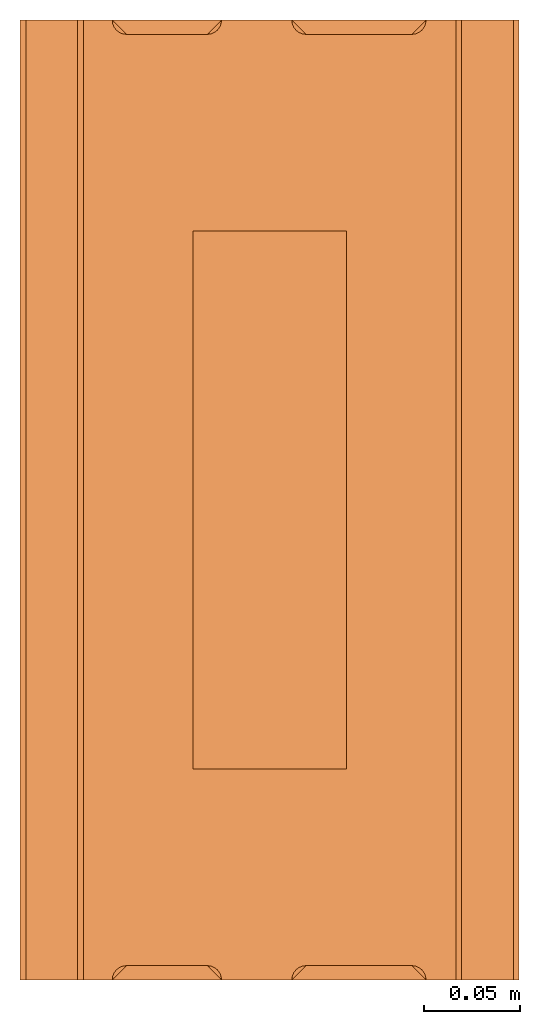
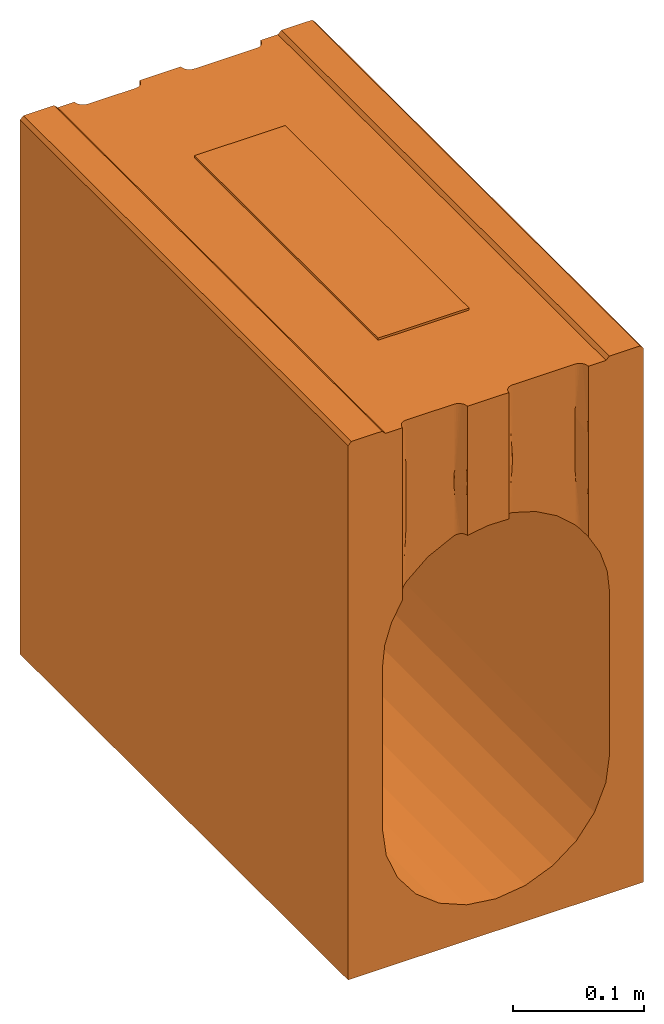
# One storey: 1 proxy.
"""IFC2X3 building model written with IfcOpenShell, lengths in millimetres."""

from ifc_helpers import new_model, entity, si_unit, converted_unit, direction, frame, origin, place, context, subcontext, project, spatial, faceted_brep, source, transform, mapped, material, element, save


model = new_model("IFC2X3")

# Units and contexts
model_context = context("Model", 3, precision=1e-06, world=origin(), true_north=direction((2.0, 6.12303176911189e-17, 1.0)))
context_of_model = context(None, 3, precision=1e-06, world=origin(), true_north=direction((2.0, 6.12303176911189e-17, 1.0)))
body_context = subcontext(model_context, "Body", "Model", "MODEL_VIEW")
ifc_project = project(units=[si_unit("LENGTHUNIT", "METRE", prefix="MILLI"), si_unit("AREAUNIT", "SQUARE_METRE", prefix="MILLI"), si_unit("VOLUMEUNIT", "CUBIC_METRE", prefix="MILLI"), converted_unit("PLANEANGLEUNIT", "DEGREE", entity("IfcRatioMeasure", 0.0174532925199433), si_unit("PLANEANGLEUNIT", "RADIAN"), dimensions=[0, 0, 0, 0, 0, 0, 0]), si_unit("TIMEUNIT", "SECOND")], contexts=[model_context, context_of_model])

# Site, building, storey
site_placement = place(None, origin())
site = spatial("IfcSite", under=ifc_project, at=site_placement, Name="Default", CompositionType="ELEMENT")
building_placement = place(site_placement, origin())
building = spatial("IfcBuilding", under=site, at=building_placement, CompositionType="ELEMENT")
storey_placement = place(building_placement, frame((0.0, 0.0, -4600.0)))
storey = spatial("IfcBuildingStorey", under=building, at=storey_placement, Name="B.O. Footing", CompositionType="ELEMENT", Elevation=-4600.0)

# Proxy
ifc_material = material(Name="Acetal Resin, Black")
shared_shape = source(origin(), body_context, "Body", "Brep", [
    faceted_brep([(-130.0, 0.0, -500.0), (-96.3425826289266, 0.0, -395.881904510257), (-99.7500000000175, 0.0, -370.0), (-86.3525403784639, 0.0, -420.0), (-99.7499999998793, 0.0, -219.996245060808), (-130.0, 0.0, -3.0), (-25.6319045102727, 0.0, -466.592582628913), (-49.7500000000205, 0.0, -456.60254037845), (-70.460678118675, 0.0, -440.71067811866), (0.24999999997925, 0.0, -470.0), (130.0, 0.0, -500.0), (-97.0, 0.0, -3.0), (-100.0, 0.0, 0.0), (-127.0, 0.0, 0.0), (-97.7180508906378, 0.0, -199.939799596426), (-91.712035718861, 0.0, -180.715410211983), (-82.0, 0.0, -163.119734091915), (-82.0, 0.0, -83.0598682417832), (26.1319045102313, 0.0, -466.592582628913), (70.9606781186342, 0.0, -440.710678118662), (50.2499999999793, 0.0, -456.602540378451), (86.8525403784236, 0.0, -420.0), (96.8425826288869, 0.0, -395.88190451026), (100.24999999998, 0.0, -370.0), (100.24999999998, 0.0, -219.996245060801), (130.0, 0.0, -3.00030384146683), (97.0, 0.0, -3.0), (81.5000000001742, 0.0, -161.700125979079), (91.7626676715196, 0.0, -179.679602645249), (81.5000000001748, 0.0, -3.0), (81.5000000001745, 0.0, -66.0758561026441), (81.5000000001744, 0.0, -113.887991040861), (98.09970829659, 0.0, -199.370179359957), (126.999696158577, 0.0, 0.0), (100.0, 0.0, 0.0), (11.5477946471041, 500.0, -3.0), (11.5477946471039, 500.0, -72.8243603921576), (-6.86860893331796, 500.0, -120.249939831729), (-25.0, 500.0, -3.0), (-25.0, 500.0, -123.236555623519), (-25.0, 500.0, -75.4244206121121), (-25.0, 0.0, -3.0), (-25.0, 0.0, -75.4244213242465), (-6.84906831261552, 0.0, -120.248547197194), (11.5477946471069, 0.0, -3.0), (11.5477946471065, 0.0, -120.636495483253), (11.5477946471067, 0.0, -72.8243591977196), (130.0, 500.0, -500.0), (96.8425826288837, 500.0, -395.88190451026), (100.249999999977, 500.0, -370.0), (86.8525403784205, 500.0, -420.0), (100.250000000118, 500.0, -219.99624506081), (130.0, 500.0, -3.00030384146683), (26.1319045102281, 500.0, -466.592582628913), (50.2499999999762, 500.0, -456.602540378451), (70.9606781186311, 500.0, -440.710678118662), (0.249999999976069, 500.0, -470.0), (-130.0, 500.0, -500.0), (126.999696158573, 500.0, 0.0), (97.0, 500.0, -3.0), (100.0, 500.0, 0.0), (98.1003080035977, 500.0, -199.373024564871), (91.7558642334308, 500.0, -179.664163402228), (81.5000000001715, 500.0, -161.700125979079), (81.5000000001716, 500.0, -113.88799138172), (-25.6319045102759, 500.0, -466.592582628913), (-70.4606781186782, 500.0, -440.71067811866), (-49.7500000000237, 500.0, -456.60254037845), (-86.3525403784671, 500.0, -420.0), (-96.3425826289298, 500.0, -395.881904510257), (-99.7500000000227, 500.0, -370.0), (-99.7499999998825, 500.0, -219.996245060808), (-130.0, 500.0, -3.0), (-97.0, 500.0, -3.0), (-82.0, 500.0, -163.119734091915), (-91.7167978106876, 500.0, -180.726560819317), (-82.0, 500.0, -3.0), (-82.0, 500.0, -83.0598682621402), (-97.7175764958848, 500.0, -199.937482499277), (-127.0, 500.0, 0.0), (-100.0, 500.0, 0.0), (40.0, 319.282032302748, -500.0), (20.7055236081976, 327.274066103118, -500.0), (56.5685424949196, 306.568542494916, -500.0), (0.0, 330.0, -500.0), (80.0, 250.0, -500.0), (77.2740661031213, 270.705523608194, -500.0), (69.2820323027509, 290.0, -500.0), (-20.7055236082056, 327.274066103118, -500.0), (-40.0, 319.282032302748, -500.0), (-56.5685424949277, 306.568542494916, -500.0), (-69.282032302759, 290.0, -500.0), (-77.2740661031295, 270.705523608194, -500.0), (-80.0, 250.0, -500.0), (69.2820323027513, 210.0, -500.0), (77.2740661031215, 229.294476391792, -500.0), (56.5685424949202, 193.431457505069, -500.0), (40.0, 180.717967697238, -500.0), (20.7055236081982, 172.725933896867, -500.0), (0.0, 170.0, -500.0), (-77.2740661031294, 229.29447639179, -500.0), (-69.2820323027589, 210.0, -500.0), (-40.0, 180.717967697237, -500.0), (-20.7055236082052, 172.725933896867, -500.0), (-56.5685424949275, 193.431457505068, -500.0), (81.1950043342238, 497.882947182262, -161.277370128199), (81.1950043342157, 2.11705281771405, -161.277370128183), (80.4216632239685, 496.125436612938, -160.225814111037), (80.4216632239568, 3.87456338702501, -160.225814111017), (76.857097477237, 493.06552136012, -155.720646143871), (78.1743561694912, 493.769048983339, -157.324124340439), (78.1743561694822, 6.23095101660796, -157.324124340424), (76.8570974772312, 6.93447863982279, -155.72064614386), (79.3794709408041, 494.773979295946, -158.85275130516), (79.3794709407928, 5.2260207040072, -158.852751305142), (75.4574022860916, 492.64296400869, -154.088380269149), (75.4574022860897, 7.35703599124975, -154.088380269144), (13.2016693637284, 495.301828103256, -120.838520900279), (14.3957886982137, 494.117072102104, -121.001817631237), (14.3957886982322, 5.8829278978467, -121.001817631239), (13.2016693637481, 4.69817189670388, -120.838520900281), (11.7383704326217, 498.320024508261, -120.65835025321), (11.7383704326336, 1.67997549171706, -120.658350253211), (12.2997424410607, 496.72680715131, -120.724881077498), (12.2997424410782, 3.27319284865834, -120.7248810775), (58.0227410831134, 492.49999999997, -138.373267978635), (74.0, 492.499999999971, -152.461531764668), (74.0, 7.49999999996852, -152.461531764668), (58.0227410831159, 7.49999999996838, -138.373267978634), (39.4240326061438, 492.49999999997, -127.988662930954), (39.4240326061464, 7.49999999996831, -127.988662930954), (15.818647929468, 493.230759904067, -121.215593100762), (17.3961191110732, 492.684129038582, -121.477157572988), (17.3961191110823, 7.31587096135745, -121.477157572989), (15.8186479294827, 6.76924009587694, -121.215593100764), (19.047794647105, 492.49999999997, -121.778920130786), (19.0477946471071, 7.49999999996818, -121.778920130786), (11.5477946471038, 500.0, -120.636495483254), (-25.1970181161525, 498.292236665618, -123.288182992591), (-25.774869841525, 496.679966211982, -123.442083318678), (-25.1970181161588, 1.7077633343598, -123.288182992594), (-25.7748698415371, 3.32003378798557, -123.442083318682), (-26.6957528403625, 495.250187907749, -123.695017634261), (-26.6957528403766, 4.7498120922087, -123.695017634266), (-27.9018817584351, 494.074857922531, -124.040674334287), (-27.9018817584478, 5.92514207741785, -124.040674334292), (-55.3007739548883, 492.499999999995, -136.845108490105), (-32.4999999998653, 492.499999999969, -125.511127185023), (-32.4999999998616, 7.49999999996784, -125.511127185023), (-55.3007739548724, 7.49999999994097, -136.845108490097), (-30.880559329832, 492.676926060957, -124.965259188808), (-30.8805593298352, 7.32307393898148, -124.96525918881), (-29.3223177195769, 493.206448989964, -124.468877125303), (-29.3223177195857, 6.79355100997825, -124.468877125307), (-81.6881727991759, 497.859866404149, -162.671417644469), (-81.6881727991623, 2.14013359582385, -162.671417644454), (-80.9062164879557, 496.099949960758, -161.569637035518), (-80.9062164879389, 3.90005003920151, -161.569637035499), (-77.346208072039, 493.061044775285, -156.918289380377), (-75.9521343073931, 492.641922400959, -155.241054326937), (-75.9521343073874, 7.35807759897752, -155.241054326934), (-77.346208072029, 6.93895522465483, -156.918289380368), (-74.4999999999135, 492.500000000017, -153.570064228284), (-74.4999999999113, 7.49999999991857, -153.570064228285), (-79.8615303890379, 494.755575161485, -160.145240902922), (-79.8615303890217, 5.24442483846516, -160.145240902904), (-78.658658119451, 493.758560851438, -158.568045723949), (-78.6586581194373, 6.24143914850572, -158.568045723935), (-25.0, 0.0, -123.236555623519), (-81.744443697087, 498.058857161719, -3.0), (-80.9951905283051, 496.249999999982, -3.0), (-25.2555563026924, 498.058857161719, -3.0), (-26.0048094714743, 496.249999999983, -3.0), (11.8033509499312, 498.05885716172, -3.0), (-79.8033008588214, 494.696699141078, -3.0), (-78.2499999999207, 493.504809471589, -3.0), (-74.4999999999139, 492.499999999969, -3.0), (-76.4411428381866, 492.755556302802, -3.0), (-76.4411428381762, 7.24444369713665, -3.0), (-74.4999999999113, 7.49999999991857, -3.0), (-27.196699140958, 494.696699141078, -3.0), (-28.7499999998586, 493.50480947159, -3.0), (13.744493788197, 494.696699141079, -3.0), (12.5526041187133, 496.249999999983, -3.0), (-30.5588571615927, 492.755556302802, -3.0), (-32.4999999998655, 492.499999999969, -3.0), (19.0477946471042, 492.49999999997, -3.0), (17.1066518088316, 492.755556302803, -3.0), (15.2977946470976, 493.504809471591, -3.0), (-32.4999999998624, 7.49999999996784, -3.0), (81.500000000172, 500.0, -3.0), (81.2444436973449, 498.05885716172, -3.0), (80.4951905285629, 496.249999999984, -3.0), (79.3033008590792, 494.69669914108, -3.0), (77.7500000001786, 493.504809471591, -3.0), (75.9411428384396, 7.2444436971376, -3.0), (75.9411428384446, 492.755556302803, -3.0), (74.0, 492.499999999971, -3.0), (74.0, 7.49999999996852, -3.0), (19.0477946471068, 7.49999999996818, -3.0), (-78.2499999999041, 6.49519052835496, -3.0), (-30.5588571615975, 7.24444369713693, -3.0), (17.1066518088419, 7.2444436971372, -3.0), (-28.7499999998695, 6.4951905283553, -3.0), (-27.196699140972, 5.30330085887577, -3.0), (13.7444937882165, 5.30330085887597, -3.0), (15.2977946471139, 6.4951905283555, -3.0), (-81.7444436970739, 1.94114283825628, -3.0), (-80.9951905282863, 3.74999999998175, -3.0), (-82.0, 0.0, -3.0), (-79.8033008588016, 5.30330085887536, -3.0), (-25.2555563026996, 1.94114283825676, -3.0), (11.8033509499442, 1.94114283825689, -3.0), (-26.0048094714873, 3.74999999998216, -3.0), (12.5526041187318, 3.74999999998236, -3.0), (77.7500000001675, 6.49519052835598, -3.0), (80.4951905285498, 3.74999999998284, -3.0), (81.2444436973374, 1.94114283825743, -3.0), (79.303300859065, 5.30330085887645, -3.0), (19.047794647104, 492.49999999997, -73.9667852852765), (74.0, 492.499999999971, -98.6242681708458), (74.0, 492.499999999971, -50.8121340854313), (81.5000000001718, 500.0, -66.0758567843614), (-74.499999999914, 492.499999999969, -50.8121342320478), (-74.4999999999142, 492.499999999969, -98.6242694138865), (-32.4999999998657, 492.499999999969, -77.6989936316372), (-20.7055236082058, 327.274066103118, -490.0), (0.0, 330.0, -490.0), (-40.0, 319.282032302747, -490.0), (-56.5685424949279, 306.568542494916, -490.0), (-80.0, 250.0, -490.0), (-69.2820323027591, 290.0, -490.0), (-77.2740661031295, 270.705523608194, -490.0), (40.0, 319.282032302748, -490.0), (40.0, 180.717967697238, -490.0), (20.7055236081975, 327.274066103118, -490.0), (56.5685424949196, 306.568542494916, -490.0), (69.2820323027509, 290.0, -490.0), (77.2740661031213, 270.705523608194, -490.0), (80.0, 250.0, -490.0), (-69.2820323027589, 210.0, -490.0), (-40.0, 180.717967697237, -490.0), (-56.5685424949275, 193.431457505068, -490.0), (0.0, 170.0, -490.0), (-20.7055236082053, 172.725933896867, -490.0), (77.2740661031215, 229.294476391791, -490.0), (69.2820323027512, 210.0, -490.0), (56.56854249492, 193.431457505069, -490.0), (20.705523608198, 172.725933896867, -490.0), (-77.2740661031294, 229.29447639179, -490.0), (74.0, 7.4999999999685, -50.8121299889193), (74.0, 7.4999999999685, -98.6242669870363), (19.0477946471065, 7.49999999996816, -73.9667863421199), (-74.4999999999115, 7.49999999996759, -50.8121335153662), (-32.4999999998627, 7.49999999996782, -77.6989939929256), (-74.4999999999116, 7.49999999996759, -98.624267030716)], [[[0, 1, 2]], [[1, 0, 3]], [[0, 2, 4, 5]], [[6, 7, 0]], [[8, 3, 0]], [[7, 8, 0]], [[9, 6, 0, 10]], [[5, 11, 12, 13]], [[14, 5, 4]], [[5, 14, 15]], [[11, 5, 16, 17]], [[16, 5, 15]], [[18, 9, 10]], [[19, 20, 10]], [[18, 10, 20]], [[21, 10, 22]], [[10, 21, 19]], [[23, 22, 10]], [[24, 23, 10, 25]], [[25, 26, 27, 28]], [[26, 29, 30, 31]], [[32, 24, 25]], [[33, 34, 26, 25]], [[25, 28, 32]], [[35, 36, 37, 38]], [[37, 39, 40, 38]], [[41, 42, 43, 44]], [[43, 45, 46, 44]], [[47, 48, 49]], [[48, 47, 50]], [[47, 49, 51, 52]], [[53, 54, 47]], [[55, 50, 47]], [[54, 55, 47]], [[56, 53, 47, 57]], [[58, 52, 59, 60]], [[61, 52, 51]], [[52, 61, 62]], [[59, 52, 63, 64]], [[63, 52, 62]], [[65, 56, 57]], [[66, 67, 57]], [[65, 57, 67]], [[68, 57, 69]], [[57, 68, 66]], [[70, 69, 57]], [[71, 70, 57, 72]], [[72, 73, 74, 75]], [[73, 76, 77, 74]], [[78, 71, 72]], [[72, 79, 80, 73]], [[72, 75, 78]], [[10, 47, 52, 25]], [[47, 81, 82]], [[81, 47, 83]], [[47, 82, 84]], [[85, 86, 47, 10]], [[87, 83, 47]], [[86, 87, 47]], [[84, 88, 57, 47]], [[57, 88, 89]], [[89, 90, 57]], [[91, 92, 57]], [[90, 91, 57]], [[57, 92, 93]], [[94, 95, 10]], [[96, 94, 10]], [[97, 10, 98]], [[10, 97, 96]], [[99, 98, 10, 0]], [[95, 85, 10]], [[100, 101, 0]], [[93, 100, 0, 57]], [[102, 103, 0]], [[104, 0, 101]], [[0, 104, 102]], [[103, 99, 0]], [[66, 68, 3, 8]], [[65, 67, 7, 6]], [[67, 66, 8, 7]], [[56, 65, 6, 9]], [[2, 1, 69, 70]], [[68, 69, 1, 3]], [[54, 53, 18, 20]], [[55, 54, 20, 19]], [[48, 50, 21, 22]], [[50, 55, 19, 21]], [[49, 48, 22, 23]], [[9, 18, 53, 56]], [[70, 71, 4, 2]], [[51, 24, 61]], [[63, 62, 27]], [[62, 61, 28]], [[105, 63, 27, 106]], [[107, 105, 106, 108]], [[109, 110, 111, 112]], [[110, 113, 114, 111]], [[113, 107, 108, 114]], [[115, 109, 112, 116]], [[117, 118, 119, 120]], [[43, 121, 122]], [[121, 123, 124, 122]], [[123, 117, 120, 124]], [[125, 126, 127, 128]], [[129, 125, 128, 130]], [[131, 132, 133, 134]], [[132, 135, 136, 133]], [[135, 129, 130, 136]], [[118, 131, 134, 119]], [[126, 115, 116, 127]], [[24, 32, 61]], [[28, 27, 62]], [[28, 61, 32]], [[122, 45, 43]], [[137, 121, 37]], [[138, 39, 37]], [[139, 138, 140, 141]], [[140, 138, 37]], [[142, 139, 141, 143]], [[144, 142, 143, 145]], [[146, 147, 148, 149]], [[147, 150, 151, 148]], [[152, 144, 145, 153]], [[150, 152, 153, 151]], [[74, 154, 155, 16]], [[74, 15, 75]], [[154, 156, 157, 155]], [[14, 78, 75]], [[158, 159, 160, 161]], [[159, 162, 163, 160]], [[156, 164, 165, 157]], [[164, 166, 167, 165]], [[166, 158, 161, 167]], [[71, 78, 14]], [[162, 146, 149, 163]], [[140, 43, 168]], [[37, 43, 140]], [[74, 16, 15]], [[14, 75, 15]], [[71, 14, 4]], [[121, 43, 37]], [[24, 51, 49, 23]], [[72, 57, 0, 5]], [[73, 169, 76]], [[169, 73, 170]], [[38, 171, 35]], [[171, 172, 173, 35]], [[73, 174, 170]], [[175, 174, 73]], [[176, 177, 178, 179]], [[177, 175, 73, 11]], [[180, 181, 182, 183]], [[184, 185, 186, 187]], [[181, 184, 188, 182]], [[185, 176, 179, 189]], [[172, 180, 183, 173]], [[59, 190, 191]], [[191, 192, 59]], [[59, 192, 193]], [[188, 184, 187]], [[193, 194, 59]], [[195, 196, 197, 198]], [[59, 194, 196, 26]], [[198, 197, 186, 199]], [[186, 185, 189, 199]], [[11, 200, 178, 177]], [[199, 189, 201, 202]], [[203, 204, 205, 206]], [[201, 203, 206, 202]], [[207, 208, 11]], [[11, 209, 207]], [[208, 210, 11]], [[211, 41, 44, 212]], [[213, 211, 212]], [[11, 210, 200]], [[214, 204, 213, 212]], [[195, 215, 26, 196]], [[216, 217, 26]], [[29, 26, 217]], [[216, 26, 218]], [[218, 26, 215]], [[205, 204, 214]], [[13, 79, 72, 5]], [[12, 80, 79, 13]], [[11, 73, 80, 12]], [[34, 60, 59, 26]], [[58, 60, 34, 33]], [[52, 58, 33, 25]], [[36, 173, 183]], [[182, 188, 219]], [[219, 187, 186]], [[173, 36, 35]], [[117, 123, 36]], [[219, 132, 131]], [[219, 188, 187]], [[183, 182, 36]], [[219, 118, 117]], [[121, 137, 36]], [[182, 219, 36]], [[123, 121, 36]], [[219, 117, 36]], [[219, 135, 132]], [[219, 131, 118]], [[220, 64, 110]], [[64, 63, 105]], [[64, 107, 113]], [[194, 193, 221]], [[191, 222, 192]], [[190, 222, 191]], [[221, 193, 222]], [[196, 194, 221]], [[220, 221, 222, 64]], [[126, 220, 115]], [[110, 109, 220]], [[109, 115, 220]], [[64, 105, 107]], [[193, 192, 222]], [[110, 64, 113]], [[221, 197, 196]], [[197, 221, 125, 129]], [[135, 219, 197, 129]], [[77, 174, 223]], [[77, 169, 170]], [[159, 224, 162]], [[177, 223, 175]], [[77, 223, 224]], [[174, 175, 223]], [[159, 158, 224]], [[223, 177, 176]], [[76, 169, 77]], [[170, 174, 77]], [[77, 154, 74]], [[156, 154, 77]], [[166, 164, 224]], [[164, 77, 224]], [[164, 156, 77]], [[158, 166, 224]], [[38, 40, 171]], [[150, 147, 225]], [[184, 181, 225]], [[40, 39, 138]], [[40, 172, 171]], [[180, 172, 40]], [[225, 144, 152]], [[40, 138, 139]], [[181, 180, 225]], [[225, 185, 184]], [[225, 40, 142]], [[180, 40, 225]], [[152, 150, 225]], [[225, 142, 144]], [[40, 139, 142]], [[146, 162, 224, 223]], [[176, 185, 225, 147]], [[176, 147, 146, 223]], [[226, 227, 228]], [[229, 228, 230, 231]], [[230, 232, 231]], [[233, 234, 228, 227]], [[235, 233, 227]], [[236, 237, 238, 239]], [[233, 236, 234]], [[240, 230, 228, 241]], [[242, 240, 241]], [[243, 244, 241, 234]], [[241, 228, 234]], [[245, 246, 247, 239]], [[236, 239, 247, 234]], [[234, 248, 243]], [[240, 249, 230]], [[198, 130, 128, 250]], [[128, 127, 251, 250]], [[198, 199, 252, 136]], [[130, 198, 136]], [[218, 30, 216]], [[116, 251, 127]], [[198, 250, 195]], [[250, 218, 215]], [[251, 31, 30, 250]], [[116, 112, 251]], [[31, 111, 114]], [[251, 111, 31]], [[30, 217, 216]], [[29, 217, 30]], [[31, 114, 108]], [[111, 251, 112]], [[106, 27, 31]], [[106, 31, 108]], [[195, 250, 215]], [[250, 30, 218]], [[252, 202, 206]], [[212, 44, 46]], [[46, 214, 212]], [[252, 119, 134]], [[46, 122, 124]], [[205, 214, 46]], [[206, 205, 252]], [[252, 199, 202]], [[252, 46, 120]], [[133, 136, 252]], [[205, 46, 252]], [[134, 133, 252]], [[252, 120, 119]], [[46, 45, 122]], [[46, 124, 120]], [[179, 253, 149, 148]], [[179, 148, 254, 189]], [[204, 42, 213]], [[211, 213, 42]], [[254, 201, 189]], [[143, 141, 42]], [[254, 151, 153]], [[204, 203, 254]], [[254, 42, 204]], [[140, 168, 42]], [[254, 148, 151]], [[143, 254, 145]], [[254, 203, 201]], [[141, 140, 42]], [[254, 143, 42]], [[211, 42, 41]], [[254, 153, 145]], [[16, 155, 17]], [[253, 179, 178]], [[253, 200, 210]], [[17, 165, 255]], [[208, 207, 17]], [[209, 17, 207]], [[253, 210, 17]], [[178, 200, 253]], [[253, 17, 255]], [[163, 255, 160]], [[161, 160, 255]], [[17, 157, 165]], [[17, 210, 208]], [[165, 167, 255]], [[161, 255, 167]], [[155, 157, 17]], [[238, 86, 85, 239]], [[237, 87, 86, 238]], [[233, 81, 83, 236]], [[236, 83, 87, 237]], [[235, 82, 81, 233]], [[82, 235, 227, 84]], [[226, 88, 84, 227]], [[228, 89, 88, 226]], [[231, 91, 90, 229]], [[229, 90, 89, 228]], [[232, 92, 91, 231]], [[92, 232, 230, 93]], [[249, 100, 93, 230]], [[240, 101, 100, 249]], [[241, 102, 104, 242]], [[242, 104, 101, 240]], [[244, 103, 102, 241]], [[103, 244, 243, 99]], [[248, 98, 99, 243]], [[234, 97, 98, 248]], [[246, 94, 96, 247]], [[247, 96, 97, 234]], [[245, 95, 94, 246]], [[95, 245, 239, 85]], [[11, 17, 209]], [[26, 31, 27]], [[37, 36, 137]], [[43, 42, 168]], [[59, 64, 222, 190]], [[125, 221, 220, 126]], [[197, 219, 186]], [[149, 253, 255, 163]]]),
    faceted_brep([(40.0, 390.0, -1.0), (-40.0, 390.0, -1.0), (-40.0, 250.0, -1.0), (-40.0, 110.0, -1.0), (40.0, 110.0, -1.0), (40.0, 110.0, -5.0), (-40.0, 110.0, -5.0), (-40.0, 250.0, -5.0), (-40.0, 390.0, -5.0), (40.0, 390.0, -5.0)], [[[0, 1, 2]], [[2, 3, 4, 0]], [[5, 6, 7]], [[7, 8, 9, 5]], [[2, 1, 8, 7]], [[3, 2, 7, 6]], [[4, 3, 6, 5]], [[0, 4, 5, 9]], [[1, 0, 9, 8]]]),
])
proxy_placement = place(storey_placement, frame((-71694.9775722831, 28686.5082893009, 300.0)))
element("IfcBuildingElementProxy", 1, at=proxy_placement, inside=storey, material=ifc_material, Name="Civil-Drainage-Channel-ACO-RoadDrain 200:33303 - PD 200 F 30.3 Rodding Access 500mm LG:33303 - PD 200 F 30.3 Rodding Access 500mm LG", ObjectType="33303 - PD 200 F 30.3 Rodding Access 500mm LG", CompositionType="ELEMENT", context=body_context, shape_type="MappedRepresentation", body=[
    mapped(shared_shape, transform((0.0, 0.0, 0.0), scale=1.0)),
])

save(model, "model.ifc")
